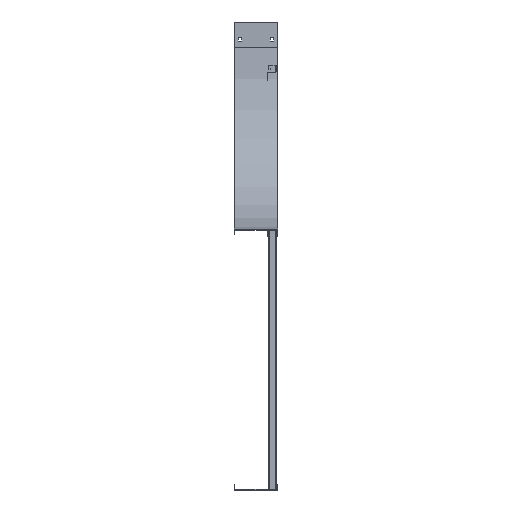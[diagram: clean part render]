
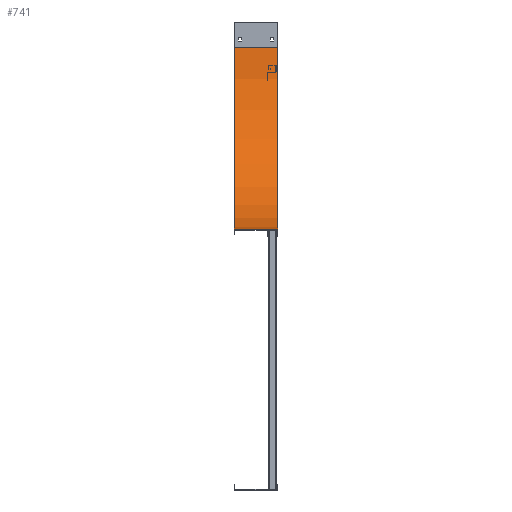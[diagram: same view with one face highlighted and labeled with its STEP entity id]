
A CAD part, left-side view. The second image highlights one B-rep face of the part: STEP entity #741.
In plain terms, the highlighted cylindrical face has radius 533.4 mm (diameter 1066.8 mm), a partial arc.
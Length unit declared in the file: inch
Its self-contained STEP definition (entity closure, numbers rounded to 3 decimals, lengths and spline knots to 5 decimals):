
#156=CARTESIAN_POINT('',(0.,-21.,3.));
#157=DIRECTION('',(1.,0.,0.));
#158=DIRECTION('',(0.,1.,0.));
#159=AXIS2_PLACEMENT_3D('',#156,#157,#158);
#165=DIRECTION('',(1.,0.,0.));
#166=VECTOR('',#165,5.08);
#167=CARTESIAN_POINT('',(-5.08,0.,3.));
#168=LINE('',#167,#166);
#169=CARTESIAN_POINT('',(-5.08,-21.,3.));
#170=DIRECTION('',(1.,0.,0.));
#171=DIRECTION('',(0.,1.,0.));
#172=AXIS2_PLACEMENT_3D('',#169,#170,#171);
#174=DIRECTION('',(1.,0.,0.));
#175=VECTOR('',#174,5.08);
#176=CARTESIAN_POINT('',(-5.08,-21.,24.));
#177=LINE('',#176,#175);
#409=CARTESIAN_POINT('',(-5.08,0.,3.));
#410=CARTESIAN_POINT('',(0.,0.,3.));
#411=VERTEX_POINT('',#409);
#412=VERTEX_POINT('',#410);
#425=CARTESIAN_POINT('',(-5.08,-21.,24.));
#426=CARTESIAN_POINT('',(0.,-21.,24.));
#427=VERTEX_POINT('',#425);
#428=VERTEX_POINT('',#426);
#729=CARTESIAN_POINT('',(-1.,-21.,3.));
#730=DIRECTION('',(1.,0.,0.));
#731=DIRECTION('',(0.,-1.,0.));
#732=AXIS2_PLACEMENT_3D('',#729,#730,#731);
#733=CYLINDRICAL_SURFACE('',#732,21.);
#734=ORIENTED_EDGE('',*,*,#553,.F.);
#735=ORIENTED_EDGE('',*,*,#596,.T.);
#737=ORIENTED_EDGE('',*,*,#736,.T.);
#738=ORIENTED_EDGE('',*,*,#715,.F.);
#739=EDGE_LOOP('',(#734,#735,#737,#738));
#740=FACE_OUTER_BOUND('',#739,.F.);
#741=ADVANCED_FACE('',(#740),#733,.F.);
#160=CIRCLE('',#159,21.);
#173=CIRCLE('',#172,21.);
#553=EDGE_CURVE('',#411,#412,#168,.T.);
#596=EDGE_CURVE('',#411,#427,#173,.T.);
#715=EDGE_CURVE('',#412,#428,#160,.T.);
#736=EDGE_CURVE('',#427,#428,#177,.T.);
